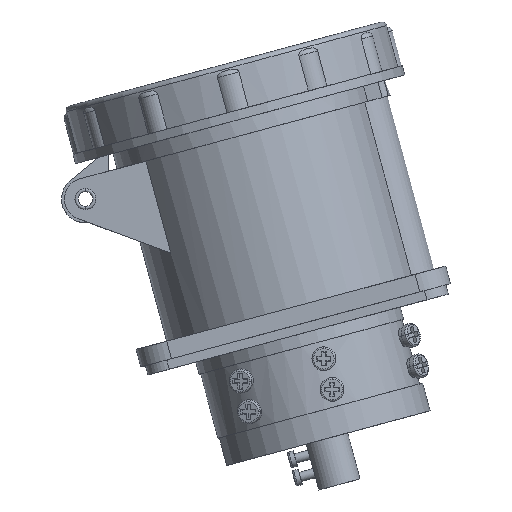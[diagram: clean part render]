
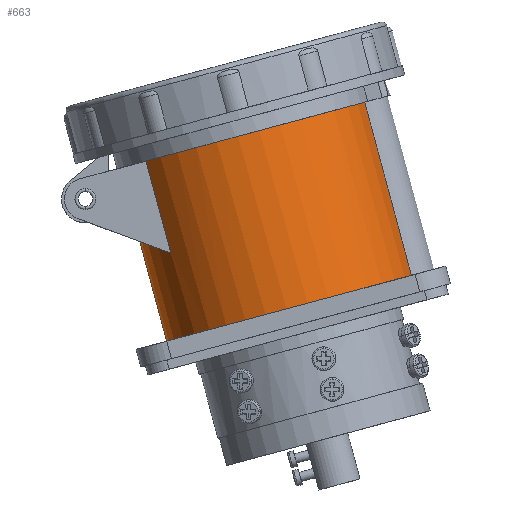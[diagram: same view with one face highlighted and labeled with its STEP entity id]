
A CAD part, left-side view. The second image highlights one B-rep face of the part: STEP entity #663.
In plain terms, the highlighted cylindrical face has radius 40.5 mm (diameter 81 mm), a partial arc.
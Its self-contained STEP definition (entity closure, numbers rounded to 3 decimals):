
#663 = ADVANCED_FACE ( 'NONE', ( #16324 ), #16327, .T. ) ;
#1687 = VERTEX_POINT ( 'NONE', #9031 ) ;
#1691 = VERTEX_POINT ( 'NONE', #9035 ) ;
#1741 = VERTEX_POINT ( 'NONE', #9085 ) ;
#1762 = VERTEX_POINT ( 'NONE', #9106 ) ;
#1805 = VERTEX_POINT ( 'NONE', #9149 ) ;
#1825 = VERTEX_POINT ( 'NONE', #9169 ) ;
#1870 = VERTEX_POINT ( 'NONE', #9214 ) ;
#2005 = VERTEX_POINT ( 'NONE', #9349 ) ;
#3158 = ORIENTED_EDGE ( 'NONE', *, *, #15643, .T. ) ;
#3159 = ORIENTED_EDGE ( 'NONE', *, *, #15678, .T. ) ;
#3160 = ORIENTED_EDGE ( 'NONE', *, *, #15718, .F. ) ;
#3161 = ORIENTED_EDGE ( 'NONE', *, *, #15743, .F. ) ;
#3162 = ORIENTED_EDGE ( 'NONE', *, *, #15516, .T. ) ;
#3163 = ORIENTED_EDGE ( 'NONE', *, *, #15756, .F. ) ;
#3164 = ORIENTED_EDGE ( 'NONE', *, *, #15697, .T. ) ;
#3165 = ORIENTED_EDGE ( 'NONE', *, *, #15707, .T. ) ;
#3714 = EDGE_LOOP ( 'NONE', ( #3165, #3159, #3158, #3160, #3161, #3162, #3163, #3164 ) ) ;
#4372 = CIRCLE ( 'NONE', #15342, 40.5 ) ;
#4383 = CIRCLE ( 'NONE', #15321, 40.5 ) ;
#4386 = CIRCLE ( 'NONE', #15307, 40.5 ) ;
#7176 =( BOUNDED_CURVE ( )  B_SPLINE_CURVE ( 3, ( #11224, #11225, #11226, #11227 ),
 .UNSPECIFIED., .F., .F. ) 
 B_SPLINE_CURVE_WITH_KNOTS ( ( 4, 4 ),
 ( 3.651, 3.799 ),
 .UNSPECIFIED. ) 
 CURVE ( )  GEOMETRIC_REPRESENTATION_ITEM ( )  RATIONAL_B_SPLINE_CURVE ( ( 1., 0.998, 0.998, 1. ) ) 
 REPRESENTATION_ITEM ( '' )  );
#7879 = CARTESIAN_POINT ( 'NONE',  ( 0., 87.531, 38.053 ) ) ;
#7883 = DIRECTION ( 'NONE',  ( 0., -0.26, -0.966 ) ) ;
#7884 = DIRECTION ( 'NONE',  ( 0., 0.966, -0.26 ) ) ;
#9031 = CARTESIAN_POINT ( 'NONE',  ( 0., 111.95, -27.034 ) ) ;
#9035 = CARTESIAN_POINT ( 'NONE',  ( -19.75, 114.484, 2.157 ) ) ;
#9085 = CARTESIAN_POINT ( 'NONE',  ( -24.75, 110.688, 0.75 ) ) ;
#9106 = CARTESIAN_POINT ( 'NONE',  ( -9.75, 34.886, -6.285 ) ) ;
#9149 = CARTESIAN_POINT ( 'NONE',  ( -9.75, 49.574, 48.272 ) ) ;
#9169 = CARTESIAN_POINT ( 'NONE',  ( -24.75, 118.487, 29.718 ) ) ;
#9214 = CARTESIAN_POINT ( 'NONE',  ( 0., 126.639, 27.524 ) ) ;
#9349 = CARTESIAN_POINT ( 'NONE',  ( -19.75, 121.674, 28.86 ) ) ;
#11126 = LINE ( 'NONE', #11127, #15340 ) ;
#11127 = CARTESIAN_POINT ( 'NONE',  ( -24.75, 118.487, 29.718 ) ) ;
#11128 = DIRECTION ( 'NONE',  ( 0., -0.26, -0.966 ) ) ;
#11134 = CARTESIAN_POINT ( 'NONE',  ( 0., 72.843, -16.505 ) ) ;
#11135 = DIRECTION ( 'NONE',  ( 0., 0.26, 0.966 ) ) ;
#11136 = DIRECTION ( 'NONE',  ( 0., 0.966, -0.26 ) ) ;
#11158 = LINE ( 'NONE', #11159, #15328 ) ;
#11159 = CARTESIAN_POINT ( 'NONE',  ( 0., 126.639, 27.524 ) ) ;
#11160 = DIRECTION ( 'NONE',  ( 0., -0.26, -0.966 ) ) ;
#11176 = CARTESIAN_POINT ( 'NONE',  ( 0., 87.531, 38.053 ) ) ;
#11177 = LINE ( 'NONE', #11178, #15322 ) ;
#11178 = CARTESIAN_POINT ( 'NONE',  ( -19.75, 94.068, -73.675 ) ) ;
#11179 = DIRECTION ( 'NONE',  ( 0., 0.26, 0.966 ) ) ;
#11180 = DIRECTION ( 'NONE',  ( 0., -0.26, -0.966 ) ) ;
#11181 = DIRECTION ( 'NONE',  ( 0., -0.966, 0.26 ) ) ;
#11188 = LINE ( 'NONE', #11189, #15316 ) ;
#11189 = CARTESIAN_POINT ( 'NONE',  ( -9.75, 54.996, 68.409 ) ) ;
#11190 = DIRECTION ( 'NONE',  ( 0., -0.26, -0.966 ) ) ;
#11203 = CARTESIAN_POINT ( 'NONE',  ( 0., 87.531, 38.053 ) ) ;
#11204 = DIRECTION ( 'NONE',  ( 0., 0.26, 0.966 ) ) ;
#11205 = DIRECTION ( 'NONE',  ( 0., -0.966, 0.26 ) ) ;
#11224 = CARTESIAN_POINT ( 'NONE',  ( -19.75, 114.484, 2.157 ) ) ;
#11225 = CARTESIAN_POINT ( 'NONE',  ( -21.497, 113.362, 1.741 ) ) ;
#11226 = CARTESIAN_POINT ( 'NONE',  ( -23.166, 112.094, 1.271 ) ) ;
#11227 = CARTESIAN_POINT ( 'NONE',  ( -24.75, 110.688, 0.75 ) ) ;
#15307 = AXIS2_PLACEMENT_3D ( 'NONE', #11203, #11204, #11205 ) ;
#15316 = VECTOR ( 'NONE', #11190, 1000. ) ;
#15321 = AXIS2_PLACEMENT_3D ( 'NONE', #11176, #11180, #11181 ) ;
#15322 = VECTOR ( 'NONE', #11179, 1000. ) ;
#15328 = VECTOR ( 'NONE', #11160, 1000. ) ;
#15340 = VECTOR ( 'NONE', #11128, 1000. ) ;
#15342 = AXIS2_PLACEMENT_3D ( 'NONE', #11134, #11135, #11136 ) ;
#15516 = EDGE_CURVE ( 'NONE', #1825, #1741, #11126, .T. ) ;
#15643 = EDGE_CURVE ( 'NONE', #1687, #1762, #4372, .T. ) ;
#15678 = EDGE_CURVE ( 'NONE', #1870, #1687, #11158, .T. ) ;
#15697 = EDGE_CURVE ( 'NONE', #1691, #2005, #11177, .T. ) ;
#15707 = EDGE_CURVE ( 'NONE', #2005, #1870, #4383, .T. ) ;
#15718 = EDGE_CURVE ( 'NONE', #1805, #1762, #11188, .T. ) ;
#15743 = EDGE_CURVE ( 'NONE', #1825, #1805, #4386, .T. ) ;
#15756 = EDGE_CURVE ( 'NONE', #1691, #1741, #7176, .T. ) ;
#16320 = AXIS2_PLACEMENT_3D ( 'NONE', #7879, #7883, #7884 ) ;
#16324 = FACE_OUTER_BOUND ( 'NONE', #3714, .T. ) ;
#16327 = CYLINDRICAL_SURFACE ( 'NONE', #16320, 40.5 ) ;
